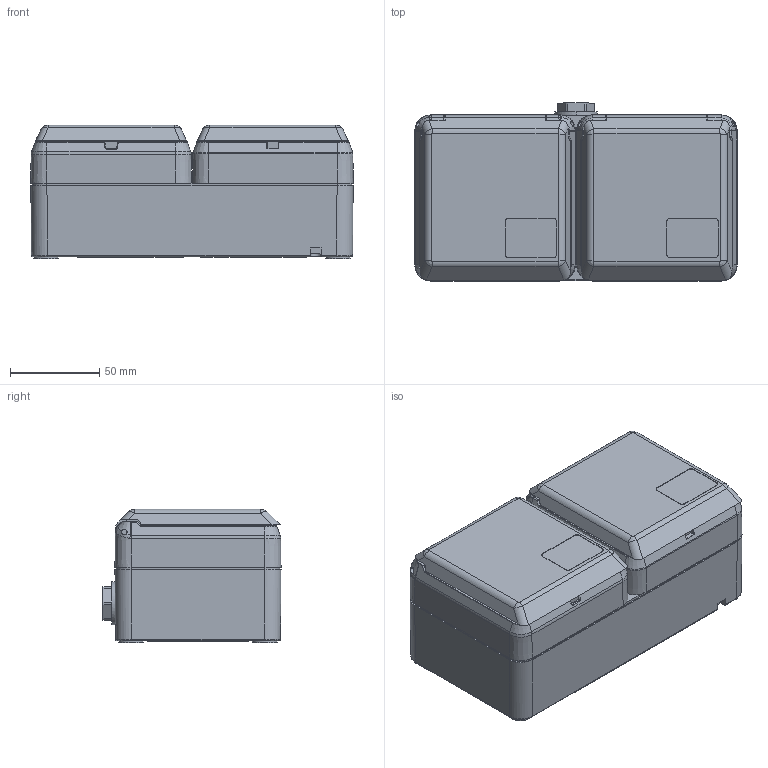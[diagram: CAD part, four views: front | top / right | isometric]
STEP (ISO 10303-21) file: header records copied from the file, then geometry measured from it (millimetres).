
FILE_DESCRIPTION((''),'2;1');
FILE_NAME('1115981_ASM_SW0001','2018-08-17T',('Gisse'),('MENNEKES'),'PRO/ENGINEER BY PARAMETRIC TECHNOLOGY CORPORATION, 2015440','PRO/ENGINEER BY PARAMETRIC TECHNOLOGY CORPORATION, 2015440','');
FILE_SCHEMA(('AUTOMOTIVE_DESIGN { 1 0 10303 214 1 1 1 1 }'));
Length unit declared in the file: millimetre
Products named in the file (1): 1115981_ASM_SW0001
Bounding box: 180.5 x 99.7 x 74.7 mm (x, y, z)
Volume: 1176026.1 mm3; surface area: 92097.1 mm2
Topology: 1 solids, 1 shells, 641 faces, 1702 edges, 1081 vertices
Faces by surface type: plane 267, cylinder 156, extrusion 82, bspline 74, cone 30, torus 20, sphere 12
Entity records: 36258 total; most frequent: CARTESIAN_POINT 7719, ORIENTED_EDGE 3404, DIRECTION 2687, PRESENTATION_STYLE_ASSIGNMENT 2426, STYLED_ITEM 1785, CURVE_STYLE 1784, EDGE_CURVE 1702, FILL_AREA_STYLE_COLOUR 1283
